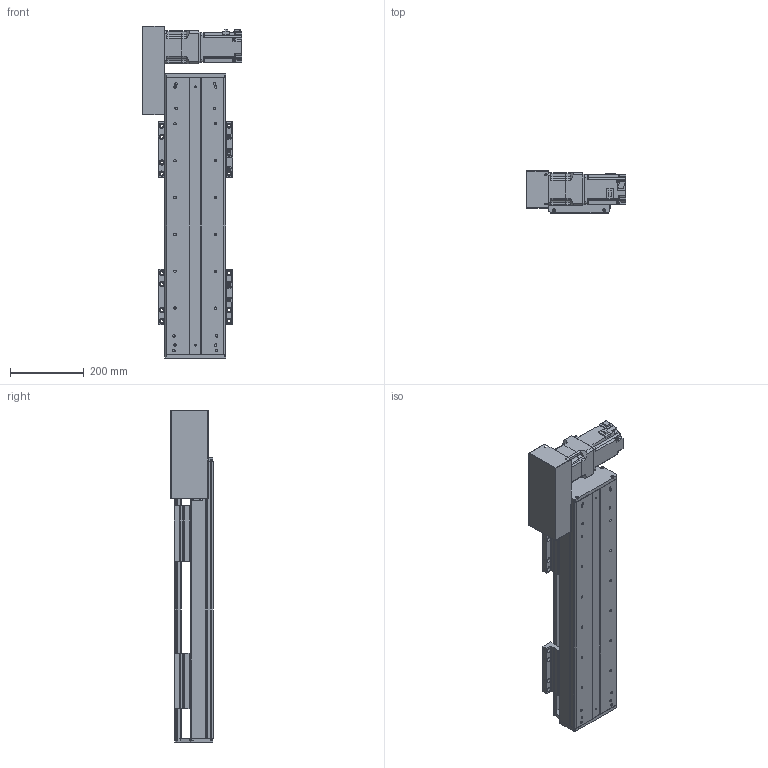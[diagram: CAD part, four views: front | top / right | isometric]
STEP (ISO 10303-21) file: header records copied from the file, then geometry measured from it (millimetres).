
FILE_DESCRIPTION(/* description */ (''),/* implementation_level */ '2;1');
FILE_NAME(/* name */ 'C:\Users\PC\Desktop\3D도면\STEP\DSB165-L7G-W0400-R.stp',/* time_stamp */ '2018-06-25T14:25:57+09:00',/* author */ ('PC'),/* organization */ (''),/* preprocessor_version */ 'ST-DEVELOPER v16.5',/* originating_system */ 'Autodesk Inventor 2017',/* authorisation */ '');
FILE_SCHEMA (('AUTOMOTIVE_DESIGN { 1 0 10303 214 3 1 1 }'));
Length unit declared in the file: millimetre
Products named in the file (12): DSB165-L; DSR165-BASE_S; hg-kr73_; ab0901-p0401300102; 11-DBS165 BELT COVER; DBS165-COVER; DBS165-COVER_1; DBS165-UP COVER; DBS165-TABLE(MSA20S); DSR126-SENSOR DOG; pm-y65_step; SENSOR BRACKET(EE-SX674A)
Assembly tree (16 placements, depth 2):
  DSB165-L
    DSR165-BASE_S
    hg-kr73_
    ab0901-p0401300102
    11-DBS165 BELT COVER
    DBS165-COVER
    DBS165-COVER_1
    DBS165-UP COVER
    DBS165-TABLE(MSA20S)  x2
    DSR126-SENSOR DOG
    pm-y65_step  x3
    SENSOR BRACKET(EE-SX674A)  x3
Bounding box: 270 x 115 x 900 mm (x, y, z)
Volume: 6125301.1 mm3; surface area: 1402231 mm2
Topology: 17 solids, 22 shells, 1647 faces, 4427 edges, 2924 vertices
Faces by surface type: plane 926, cylinder 609, cone 100, sphere 8, torus 4
Full cylindrical faces by diameter (mm): 2.459 x20, 3.5 x6, 4.134 x38, 4.5 x18, 5 x27, 5.5 x36, 5.9 x4, 6 x8, 6.6 x14, 6.647 x32, 6.8 x1, 7 x4, 7.6 x4, 8 x1, 8.4 x1, 8.5 x24, 8.7 x1, 9.5 x32, 11 x6, 14 x16, 19 x1, 22 x1, 24 x1, 25 x1, 28 x1, 67 x1, 70 x2, 80 x1
Entity records: 35069 total; most frequent: DIRECTION 6188, CARTESIAN_POINT 6019, ORIENTED_EDGE 5494, EDGE_CURVE 2752, AXIS2_PLACEMENT_3D 2264, VERTEX_POINT 1957, EDGE_LOOP 1691, LINE 1660
